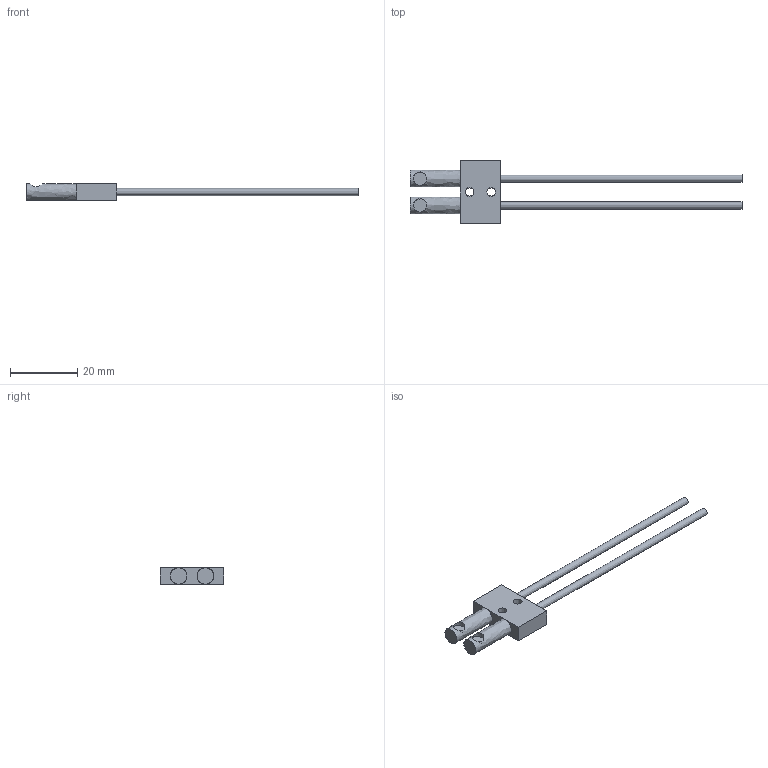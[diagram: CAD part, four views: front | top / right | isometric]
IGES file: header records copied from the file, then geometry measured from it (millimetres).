
Global section: file name: e:\Temp\web_kf_eth_38h_20.igs; native system: NX V6.0; preprocessor: SIEMENS UGS NX 6.0; date: 20130108.144623; units: millimetre
Bounding box: 99 x 19 x 5 mm (x, y, z)
Surface area: 2319 mm2 (no closed solid volume)
Topology: 0 solids, 0 shells, 22 faces, 470 edges, 670 vertices
Faces by surface type: bspline 22
